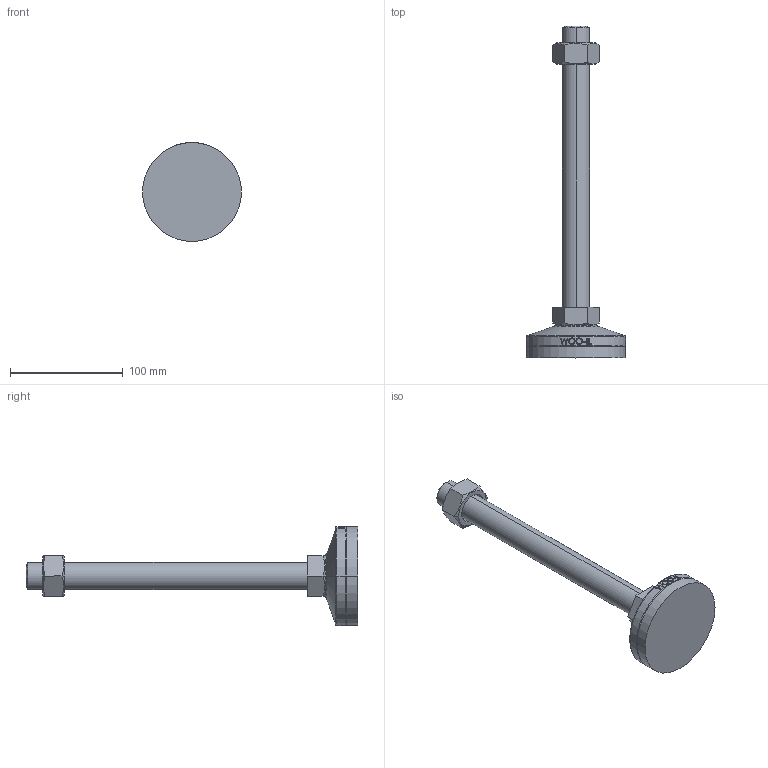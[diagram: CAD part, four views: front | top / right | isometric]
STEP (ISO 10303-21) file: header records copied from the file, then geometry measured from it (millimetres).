
FILE_DESCRIPTION (( 'STEP AP214' ), '1' );
FILE_NAME ('MFTR88-M24-250.step', '2021-02-08T08:39:34', ( '' ), ( '' ), 'SwSTEP 2.0', 'SolidWorks 2019', '' );
FILE_SCHEMA (( 'AUTOMOTIVE_DESIGN' ));
Length unit declared in the file: millimetre
Products named in the file (2): MFTR88-M24-250
Bounding box: 88 x 295 x 88 mm (x, y, z)
Volume: 291526.7 mm3; surface area: 57753.1 mm2
Topology: 4 solids, 4 shells, 103 faces, 235 edges, 150 vertices
Faces by surface type: plane 49, cylinder 18, bspline 16, cone 14, torus 6
Entity records: 4433 total; most frequent: CARTESIAN_POINT 2160, ORIENTED_EDGE 470, DIRECTION 417, EDGE_CURVE 235, AXIS2_PLACEMENT_3D 159, VERTEX_POINT 150, EDGE_LOOP 115, FACE_OUTER_BOUND 103
